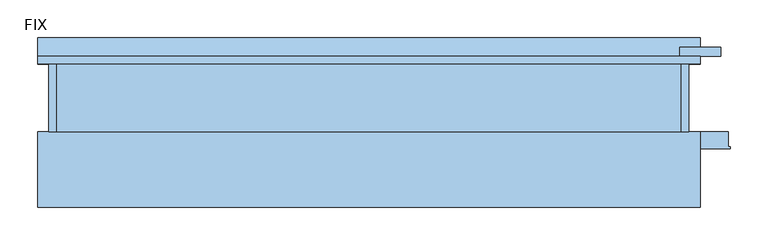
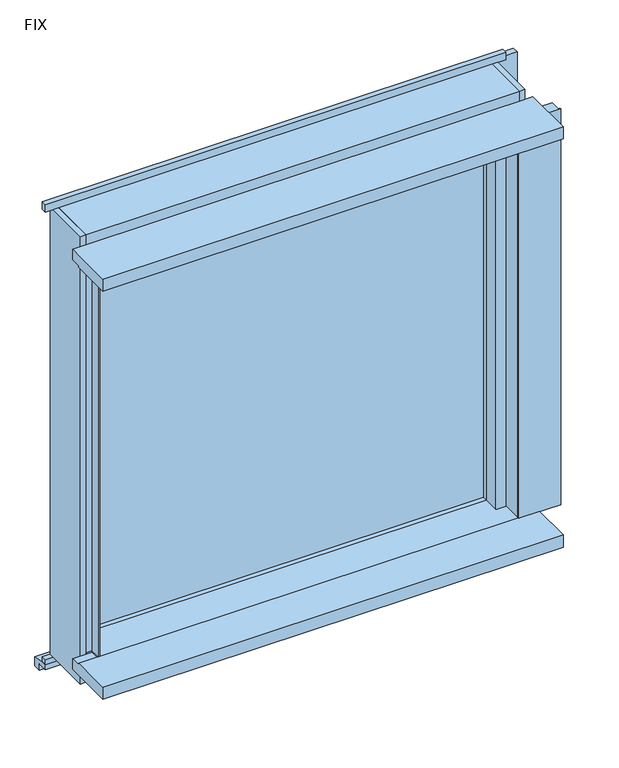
"""IFC4 building model written with IfcOpenShell, lengths in millimetres: window geometry, FNSⅡ100R_非防火_ALC枠_単窓 : FIX."""

from ifc_helpers import new_model, si_unit, frame, origin, place, context, project, spatial, polyline, outline, extrude, faceted_brep, source, transform, mapped, element, save


def fix_54cd0e88(model_context):
    return source(origin(), model_context, "Body", "SolidModel", [
        extrude(outline(polyline([(-380.0, 55.6), (380.0, 55.6), (380.0, 49.6), (-380.0, 49.6), (-380.0, 55.6)])), frame((0.0, 0.0, 900.0), z_axis=(0.0, 0.0, 1.0), x_axis=(1.0, 0.0, 0.0)), (0.0, 0.0, 1.0), 780.0),
        extrude(outline(polyline([(-380.0, 73.6), (380.0, 73.6), (380.0, 67.6), (-380.0, 67.6), (-380.0, 73.6)])), frame((0.0, 0.0, 900.0), z_axis=(0.0, 0.0, 1.0), x_axis=(1.0, 0.0, 0.0)), (0.0, 0.0, 1.0), 780.0),
        faceted_brep([(-380.0, 40.0, 1680.0), (-415.0, 40.0, 1680.0), (-415.0, 40.0, 900.0), (-380.0, 40.0, 900.0), (-380.0, 90.0, 1680.0), (-380.0, 90.0, 900.0), (-415.0, 90.0, 1745.0), (-415.0, -10.0, 1745.0), (-415.0, -10.0, 840.0), (-415.0, 90.0, 840.0), (-415.0, 90.0, 900.0), (-415.0, 90.0, 1680.0), (-425.0, 90.0, 1745.0), (-425.0, -10.0, 1745.0), (-425.0, 90.0, 840.0), (-425.0, -10.0, 840.0)], [[[0, 1, 2, 3]], [[4, 0, 3, 5]], [[6, 7, 8, 9, 10, 2, 1, 11]], [[5, 3, 2, 10]], [[12, 13, 7, 6]], [[14, 9, 8, 15]], [[13, 12, 14, 15]], [[7, 13, 15, 8]], [[12, 6, 11, 4, 5, 10, 9, 14]], [[4, 11, 1, 0]]]),
        faceted_brep([(380.0, 40.0, 1680.0), (380.0, 90.0, 1680.0), (380.0, 90.0, 900.0), (380.0, 40.0, 900.0), (415.0, 40.0, 1680.0), (415.0, 40.0, 900.0), (425.0, -10.0, 1745.0), (415.0, -10.0, 1745.0), (415.0, -10.0, 840.0), (425.0, -10.0, 840.0), (425.0, 90.0, 1745.0), (425.0, 90.0, 840.0), (415.0, 90.0, 900.0), (415.0, 90.0, 1745.0), (415.0, 90.0, 840.0), (415.0, 90.0, 1680.0)], [[[0, 1, 2, 3]], [[4, 0, 3, 5]], [[6, 7, 8, 9]], [[10, 6, 9, 11]], [[5, 3, 2, 12]], [[10, 13, 7, 6]], [[11, 9, 8, 14]], [[13, 10, 11, 14, 12, 2, 1, 15]], [[7, 13, 15, 4, 5, 12, 14, 8]], [[15, 1, 0, 4]]]),
        extrude(outline(polyline([(400.0, -30.0), (400.0, 8.5), (380.0, 8.5), (380.0, 40.0), (415.0, 40.0), (415.0, -10.0), (403.0, -10.0), (403.0, -30.0), (400.0, -30.0)])), frame((0.0, 0.0, 900.0), z_axis=(0.0, 0.0, 1.0), x_axis=(1.0, 0.0, 0.0)), (0.0, 0.0, 1.0), 800.0),
        extrude(outline(polyline([(-415.0, -10.0), (-415.0, 40.0), (-380.0, 40.0), (-380.0, 8.5), (-400.0, 8.5), (-400.0, -30.0), (-403.0, -30.0), (-403.0, -10.0), (-415.0, -10.0)])), frame((0.0, 0.0, 900.0), z_axis=(0.0, 0.0, 1.0), x_axis=(1.0, 0.0, 0.0)), (0.0, 0.0, 1.0), 800.0),
        extrude(outline(polyline([(-10.0, 884.0), (-10.0, 897.0), (-30.0, 897.0), (-30.0, 900.0), (40.0, 900.0), (40.0, 884.0), (-10.0, 884.0)])), frame((-403.0, 0.0, 0.0), z_axis=(1.0, 0.0, 0.0), x_axis=(0.0, 1.0, 0.0)), (0.0, 0.0, 1.0), 806.0),
        extrude(outline(polyline([(90.0, 840.0), (-10.0, 840.0), (-10.0, 884.0), (40.0, 884.0), (40.0, 900.0), (90.0, 900.0), (90.0, 870.0), (71.0, 870.0), (71.0, 850.0), (90.0, 850.0), (90.0, 840.0)])), frame((-415.0, 0.0, 0.0), z_axis=(1.0, 0.0, 0.0), x_axis=(0.0, 1.0, 0.0)), (0.0, 0.0, 1.0), 830.0),
        extrude(outline(polyline([(40.0, 1677.0), (6.0, 1677.0), (6.0, 1700.0), (-30.0, 1700.0), (-30.0, 1703.0), (-10.0, 1703.0), (-10.0, 1715.0), (40.0, 1715.0), (40.0, 1677.0)])), frame((-403.0, 0.0, 0.0), z_axis=(1.0, 0.0, 0.0), x_axis=(0.0, 1.0, 0.0)), (0.0, 0.0, 1.0), 806.0),
        extrude(outline(polyline([(90.0, 1680.0), (40.0, 1680.0), (40.0, 1715.0), (-10.0, 1715.0), (-10.0, 1745.0), (90.0, 1745.0), (90.0, 1680.0)])), frame((-415.0, 0.0, 0.0), z_axis=(1.0, 0.0, 0.0), x_axis=(0.0, 1.0, 0.0)), (0.0, 0.0, 1.0), 830.0),
        extrude(outline(polyline([(-110.0, 900.0), (-30.0, 900.0), (-30.0, 897.0), (-10.0, 897.0), (-10.0, 875.0), (-110.0, 875.0), (-110.0, 900.0)])), frame((-440.0, 0.0, 0.0), z_axis=(1.0, 0.0, 0.0), x_axis=(0.0, 1.0, 0.0)), (0.0, 0.0, 1.0), 880.0),
        extrude(outline(polyline([(-440.0, 80.0), (-440.0, 90.0), (440.0, 90.0), (440.0, 80.0), (-440.0, 80.0)])), frame((0.0, 0.0, 830.0), z_axis=(0.0, 0.0, 1.0), x_axis=(1.0, 0.0, 0.0)), (0.0, 0.0, 1.0), 10.0),
        extrude(outline(polyline([(100.0, 807.0), (100.0, 820.0), (80.0, 820.0), (80.0, 830.0), (90.0, 830.0), (115.0, 825.0), (115.0, 807.0), (100.0, 807.0)])), frame((-440.0, 0.0, 0.0), z_axis=(1.0, 0.0, 0.0), x_axis=(0.0, 1.0, 0.0)), (0.0, 0.0, 1.0), 880.0),
        extrude(outline(polyline([(403.0, -30.0), (403.0, -10.0), (477.0, -10.0), (477.0, -30.0), (480.0, -30.0), (480.0, -32.5), (400.0, -32.5), (400.0, -30.0), (403.0, -30.0)])), frame((0.0, 0.0, 900.0), z_axis=(0.0, 0.0, 1.0), x_axis=(1.0, 0.0, 0.0)), (0.0, 0.0, 1.0), 800.0),
        extrude(outline(polyline([(467.5, 90.0), (412.5, 90.0), (412.5, 102.0), (467.5, 102.0), (467.5, 90.0)])), frame((0.0, 0.0, 840.0), z_axis=(0.0, 0.0, 1.0), x_axis=(1.0, 0.0, 0.0)), (0.0, 0.0, 1.0), 905.0),
        extrude(outline(polyline([(-110.0, 1725.0), (-10.0, 1725.0), (-10.0, 1703.0), (-30.0, 1703.0), (-30.0, 1700.0), (-110.0, 1700.0), (-110.0, 1725.0)])), frame((-440.0, 0.0, 0.0), z_axis=(1.0, 0.0, 0.0), x_axis=(0.0, 1.0, 0.0)), (0.0, 0.0, 1.0), 880.0),
        extrude(outline(polyline([(-440.0, 80.0), (-440.0, 90.0), (440.0, 90.0), (440.0, 80.0), (-440.0, 80.0)])), frame((0.0, 0.0, 1745.0), z_axis=(0.0, 0.0, 1.0), x_axis=(1.0, 0.0, 0.0)), (0.0, 0.0, 1.0), 15.0),
    ])


if __name__ == "__main__":
    model = new_model("IFC4")
    model_context = context("Model", 3, world=origin())
    ifc_project = project(units=[si_unit("LENGTHUNIT", "METRE", prefix="MILLI")], contexts=[model_context])
    site = spatial("IfcSite", under=ifc_project)
    building = spatial("IfcBuilding", under=site)
    placement = place(None, origin())
    fix_shape = fix_54cd0e88(model_context)
    element("IfcWindow", 1, ObjectType="FNSⅡ100R_非防火_ALC枠_単窓 : FIX", at=placement, inside=building, context=model_context, shape_type="MappedRepresentation", body=[
        mapped(fix_shape, transform((0.0, 0.0, 0.0), x_axis=(1.0, 0.0, 0.0), y_axis=(0.0, 1.0, 0.0), z_axis=(0.0, 0.0, 1.0))),
    ])
    save(model, "model.ifc")
